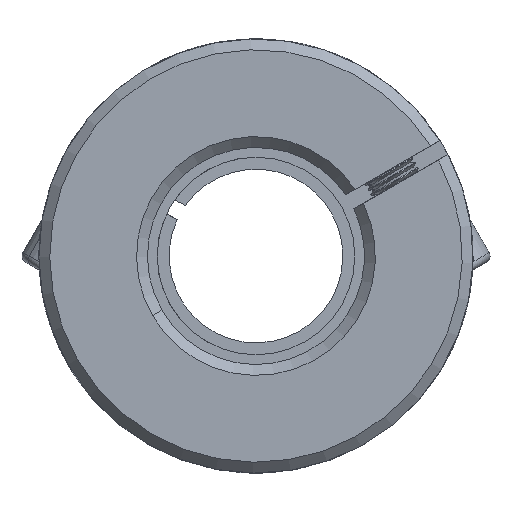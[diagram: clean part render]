
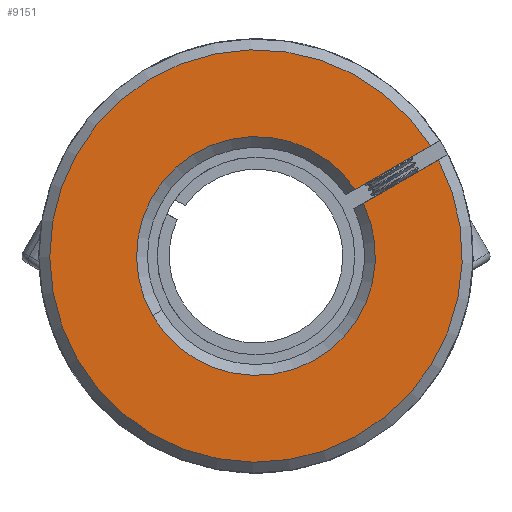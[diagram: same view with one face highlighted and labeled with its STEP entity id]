
A CAD part, front view. The second image highlights one B-rep face of the part: STEP entity #9151.
In plain terms, the highlighted planar face has unit normal (0, -1, 0).
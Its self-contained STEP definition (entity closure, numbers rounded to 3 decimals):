
#1091 = CARTESIAN_POINT ( 'NONE',  ( -1.447, -31.239, 40. ) ) ;
#1178 = VECTOR ( 'NONE', #8888, 1000. ) ;
#1333 = DIRECTION ( 'NONE',  ( 0.5, 0., -0.866 ) ) ;
#1560 = CIRCLE ( 'NONE', #7235, 11. ) ;
#2400 = DIRECTION ( 'NONE',  ( 0.5, 0., -0.866 ) ) ;
#2405 = CARTESIAN_POINT ( 'NONE',  ( 7.562, -31.239, 44.339 ) ) ;
#2744 = VERTEX_POINT ( 'NONE', #7938 ) ;
#2751 = EDGE_CURVE ( 'NONE', #8436, #9677, #1560, .T. ) ;
#3049 = LINE ( 'NONE', #2405, #1178 ) ;
#3452 = VERTEX_POINT ( 'NONE', #9792 ) ;
#3549 = ORIENTED_EDGE ( 'NONE', *, *, #4283, .F. ) ;
#3581 = CARTESIAN_POINT ( 'NONE',  ( 6.812, -31.239, 45.638 ) ) ;
#3600 = AXIS2_PLACEMENT_3D ( 'NONE', #6546, #7636, #1333 ) ;
#4283 = EDGE_CURVE ( 'NONE', #2744, #13155, #3049, .T. ) ;
#4422 = ORIENTED_EDGE ( 'NONE', *, *, #2751, .T. ) ;
#4723 = DIRECTION ( 'NONE',  ( 0., 1., 0. ) ) ;
#5288 = EDGE_CURVE ( 'NONE', #2744, #8436, #5746, .T. ) ;
#5746 = CIRCLE ( 'NONE', #9865, 11. ) ;
#5942 = EDGE_CURVE ( 'NONE', #3452, #9677, #9583, .T. ) ;
#6526 = EDGE_LOOP ( 'NONE', ( #3549, #9374, #4422, #13643, #12722 ) ) ;
#6546 = CARTESIAN_POINT ( 'NONE',  ( -1.447, -31.239, 40. ) ) ;
#6936 = CARTESIAN_POINT ( 'NONE',  ( -1.447, -31.239, 40. ) ) ;
#7235 = AXIS2_PLACEMENT_3D ( 'NONE', #6936, #7797, #2400 ) ;
#7583 = VECTOR ( 'NONE', #13316, 1000. ) ;
#7636 = DIRECTION ( 'NONE',  ( 0., -1., 0. ) ) ;
#7797 = DIRECTION ( 'NONE',  ( 0., 1., 0. ) ) ;
#7927 = FACE_OUTER_BOUND ( 'NONE', #6526, .T. ) ;
#7932 = CARTESIAN_POINT ( 'NONE',  ( 52.98, -31.239, 45.743 ) ) ;
#7938 = CARTESIAN_POINT ( 'NONE',  ( 8.431, -31.239, 44.841 ) ) ;
#8436 = VERTEX_POINT ( 'NONE', #13874 ) ;
#8511 = AXIS2_PLACEMENT_3D ( 'NONE', #7932, #4723, #13224 ) ;
#8642 = EDGE_CURVE ( 'NONE', #3452, #13155, #12058, .T. ) ;
#8888 = DIRECTION ( 'NONE',  ( 0.866, 0., 0.5 ) ) ;
#9018 = PLANE ( 'NONE',  #8511 ) ;
#9151 = ADVANCED_FACE ( 'NONE', ( #7927 ), #9018, .F. ) ;
#9368 = CARTESIAN_POINT ( 'NONE',  ( 7.68, -31.239, 46.14 ) ) ;
#9374 = ORIENTED_EDGE ( 'NONE', *, *, #5288, .T. ) ;
#9583 = LINE ( 'NONE', #3581, #7583 ) ;
#9677 = VERTEX_POINT ( 'NONE', #9368 ) ;
#9787 = DIRECTION ( 'NONE',  ( 0.5, 0., -0.866 ) ) ;
#9792 = CARTESIAN_POINT ( 'NONE',  ( 14.616, -31.239, 50.147 ) ) ;
#9865 = AXIS2_PLACEMENT_3D ( 'NONE', #1091, #10783, #9787 ) ;
#10783 = DIRECTION ( 'NONE',  ( 0., 1., 0. ) ) ;
#12058 = CIRCLE ( 'NONE', #3600, 19. ) ;
#12722 = ORIENTED_EDGE ( 'NONE', *, *, #8642, .T. ) ;
#13155 = VERTEX_POINT ( 'NONE', #13362 ) ;
#13224 = DIRECTION ( 'NONE',  ( 0.5, 0., -0.866 ) ) ;
#13316 = DIRECTION ( 'NONE',  ( -0.866, 0., -0.5 ) ) ;
#13362 = CARTESIAN_POINT ( 'NONE',  ( 15.367, -31.239, 48.848 ) ) ;
#13643 = ORIENTED_EDGE ( 'NONE', *, *, #5942, .F. ) ;
#13874 = CARTESIAN_POINT ( 'NONE',  ( -10.971, -31.239, 34.497 ) ) ;
